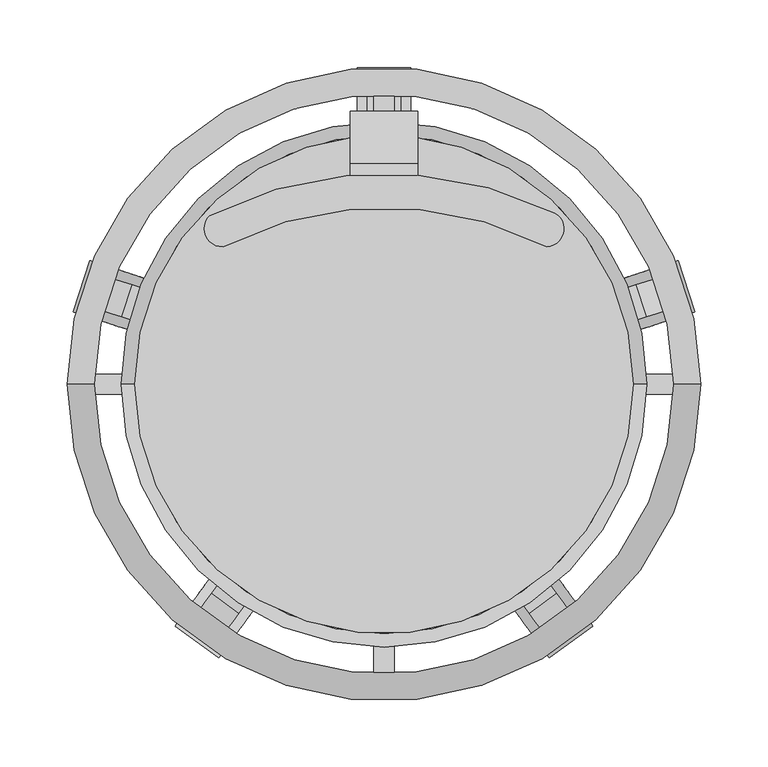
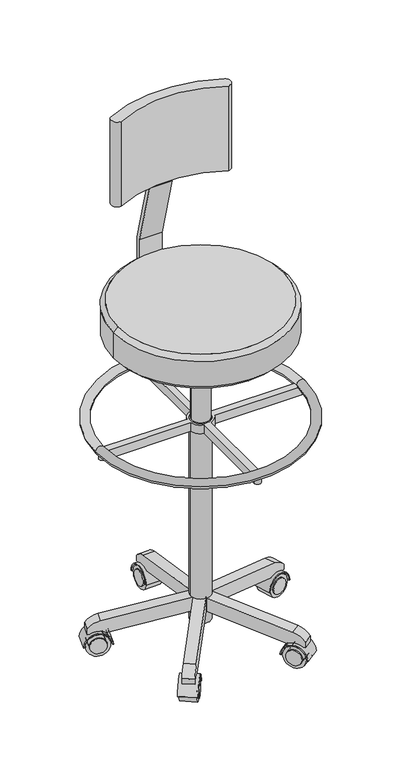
"""IFC4 building model written with IfcOpenShell, lengths in millimetres: furniture geometry, BIMHealth-Tall_Stool_V2-LOD2A-v1 : BIMHealth-Tall_Stool_V2-LOD2A-v1."""

from ifc_helpers import new_model, si_unit, point, frame, frame_2d, origin, origin_2d, place, context, project, spatial, polyline, circle_curve, ellipse_curve, trimmed, segment, composite_curve, outline, extrude, faceted_brep, source, transform, mapped, element, save
from ifc_brep_helpers import plane_surface, cylinder_surface, revolved_surface, advanced_brep


def furniture_127ff72e(model_context):
    return source(origin(), model_context, "Body", "SolidModel", [
        extrude(outline(composite_curve([segment(trimmed(circle_curve(frame_2d((-120.0847032, 115.4267056)), 13.3740969), [point((-119.4469665, 102.0678224))], [point((-129.3265232, 125.0939302))], False, "CARTESIAN"), True, "CONTINUOUS"), segment(trimmed(circle_curve(frame_2d((0.6377367, -131.2394215)), 287.397801), [point((-129.3265232, 125.0939302))], [point((126.8653249, 126.9544824))], False, "CARTESIAN"), True, "CONTINUOUS"), segment(trimmed(circle_curve(frame_2d((120.0847032, 115.4267056)), 13.3740969), [point((126.8653249, 126.9544824))], [point((120.7224399, 102.0678224))], False, "CARTESIAN"), True, "CONTINUOUS"), segment(trimmed(circle_curve(frame_2d((0.6377367, -131.2394215)), 262.397801), [point((120.7224399, 102.0678224))], [point((-119.4469665, 102.0678224))], True, "CARTESIAN"), True, "CONTINUOUS")], self_intersect=False)), frame((0.0, 0.0, 1000.0), z_axis=(0.0, 0.0, 1.0), x_axis=(1.0, 0.0, 0.0)), (0.0, 0.0, 1.0), 200.0),
        extrude(outline(composite_curve([segment(polyline([(192.4674596, 833.2734379), (153.6446028, 978.1623118), (153.6446028, 1128.1623118)]), True, "CONTINUOUS"), segment(trimmed(circle_curve(frame_2d((158.6446028, 1128.1623118)), 5.0), [point((153.6446028, 1128.1623118))], [point((163.6446028, 1128.1623118))], False, "CARTESIAN"), True, "CONTINUOUS"), segment(polyline([(163.6446028, 1128.1623118), (163.6446028, 979.4788368), (202.4674596, 834.5899628), (202.4674596, 753.2734379)]), True, "CONTINUOUS"), segment(trimmed(circle_curve(frame_2d((197.4674596, 753.2734379)), 5.0), [point((202.4674596, 753.2734379))], [point((192.4674596, 753.2734379))], False, "CARTESIAN"), True, "CONTINUOUS"), segment(polyline([(192.4674596, 753.2734379), (192.4674596, 833.2734379)]), True, "CONTINUOUS")], self_intersect=False)), frame((-25.0, 0.0, 0.0), z_axis=(1.0, 0.0, 0.0), x_axis=(0.0, 1.0, 0.0)), (0.0, 0.0, 1.0), 50.0),
        extrude(outline(composite_curve([segment(trimmed(circle_curve(origin_2d(), 27.5), [point((-7.5, -26.4575131))], [point((-26.4575131, -7.5))], False, "CARTESIAN"), True, "CONTINUOUS"), segment(polyline([(-26.4575131, -7.5), (-220.0, -7.5)]), True, "CONTINUOUS"), segment(trimmed(circle_curve(frame_2d((-220.0, 0.0)), 7.5), [point((-220.0, -7.5))], [point((-220.0, 7.5))], False, "CARTESIAN"), True, "CONTINUOUS"), segment(polyline([(-220.0, 7.5), (-26.4575131, 7.5)]), True, "CONTINUOUS"), segment(trimmed(circle_curve(origin_2d(), 27.5), [point((-26.4575131, 7.5))], [point((-7.5, 26.4575131))], False, "CARTESIAN"), True, "CONTINUOUS"), segment(polyline([(-7.5, 26.4575131), (-7.5, 219.6672121)]), True, "CONTINUOUS"), segment(trimmed(circle_curve(frame_2d((0.0, 219.6672121)), 7.5), [point((-7.5, 219.6672121))], [point((7.5, 219.6672121))], False, "CARTESIAN"), True, "CONTINUOUS"), segment(polyline([(7.5, 219.6672121), (7.5, 26.4575131)]), True, "CONTINUOUS"), segment(trimmed(circle_curve(origin_2d(), 27.5), [point((7.5, 26.4575131))], [point((26.4575131, 7.5))], False, "CARTESIAN"), True, "CONTINUOUS"), segment(polyline([(26.4575131, 7.5), (222.1681537, 7.5)]), True, "CONTINUOUS"), segment(trimmed(circle_curve(frame_2d((222.1681537, 0.0)), 7.5), [point((222.1681537, 7.5))], [point((222.1681537, -7.5))], False, "CARTESIAN"), True, "CONTINUOUS"), segment(polyline([(222.1681537, -7.5), (26.4575131, -7.5)]), True, "CONTINUOUS"), segment(trimmed(circle_curve(origin_2d(), 27.5), [point((26.4575131, -7.5))], [point((7.5, -26.4575131))], False, "CARTESIAN"), True, "CONTINUOUS"), segment(polyline([(7.5, -26.4575131), (7.5, -220.0)]), True, "CONTINUOUS"), segment(trimmed(circle_curve(frame_2d((0.0, -220.0)), 7.5), [point((7.5, -220.0))], [point((-7.5, -220.0))], False, "CARTESIAN"), True, "CONTINUOUS"), segment(polyline([(-7.5, -220.0), (-7.5, -26.4575131)]), True, "CONTINUOUS")], self_intersect=False), holes=[composite_curve([segment(trimmed(circle_curve(origin_2d(), 22.5), [point((-22.5, 0.0))], [point((22.5, 0.0))], True, "CARTESIAN"), True, "CONTINUOUS"), segment(trimmed(circle_curve(origin_2d(), 22.5), [point((22.5, 0.0))], [point((-22.5, 0.0))], True, "CARTESIAN"), True, "CONTINUOUS")], self_intersect=False)]), frame((0.0, 0.0, 502.3237726), z_axis=(0.0, 0.0, 1.0), x_axis=(1.0, 0.0, 0.0)), (0.0, 0.0, 1.0), 20.0),
        advanced_brep(
        [(215.0, 0.0, 522.3234967), (-215.0, 0.0, 522.3234967), (-235.0, 0.0, 522.3234967), (235.0, 0.0, 522.3234967)],
        [
            (0, 1, circle_curve(frame((0.0, 0.0, 522.3234967), z_axis=(0.0, 0.0, -1.0), x_axis=(-1.0, 0.0, 0.0)), 215.0)),
            (1, 2, circle_curve(frame((-225.0, 0.0, 522.3234967), z_axis=(0.0, -1.0, 0.0), x_axis=(1.0, 0.0, 0.0)), 10.0)),
            (2, 3, circle_curve(frame((0.0, 0.0, 522.3234967), z_axis=(0.0, 0.0, 1.0), x_axis=(-1.0, 0.0, 0.0)), 235.0)),
            (3, 0, circle_curve(frame((225.0, 0.0, 522.3234967), z_axis=(0.0, -1.0, 0.0), x_axis=(-1.0, 0.0, 0.0)), 10.0)),
            (2, 1, circle_curve(frame((-225.0, 0.0, 522.3234967), z_axis=(0.0, -1.0, 0.0), x_axis=(1.0, 0.0, 0.0)), 10.0)),
            (0, 3, circle_curve(frame((225.0, 0.0, 522.3234967), z_axis=(0.0, -1.0, 0.0), x_axis=(-1.0, 0.0, 0.0)), 10.0)),
            (1, 0, circle_curve(frame((0.0, 0.0, 522.3234967), z_axis=(0.0, 0.0, -1.0), x_axis=(1.0, 0.0, 0.0)), 215.0)),
            (3, 2, circle_curve(frame((0.0, 0.0, 522.3234967), z_axis=(0.0, 0.0, 1.0), x_axis=(1.0, 0.0, 0.0)), 235.0)),
        ],
        [
            revolved_surface(trimmed(ellipse_curve(frame((-225.0, 0.0, 522.3234967), z_axis=(0.0, 1.0, 0.0), x_axis=(1.0, 0.0, 0.0)), 10.0, 10.0), [point((-235.0, 0.0, 522.3234967))], [point((-215.0, 0.0, 522.3234967))], True, "CARTESIAN"), (0.0, 0.0, 522.3234967), (0.0, 0.0, 1.0)),
            revolved_surface(trimmed(ellipse_curve(frame((-225.0, 0.0, 522.3234967), z_axis=(0.0, 1.0, 0.0), x_axis=(1.0, 0.0, 0.0)), 10.0, 10.0), [point((-215.0, 0.0, 522.3234967))], [point((-235.0, 0.0, 522.3234967))], True, "CARTESIAN"), (0.0, 0.0, 522.3234967), (0.0, 0.0, 1.0)),
            revolved_surface(trimmed(ellipse_curve(frame((225.0, 0.0, 522.3234967), z_axis=(0.0, -1.0, 0.0), x_axis=(-1.0, 0.0, 0.0)), 10.0, 10.0), [point((235.0, 0.0, 522.3234967))], [point((215.0, 0.0, 522.3234967))], True, "CARTESIAN"), (0.0, 0.0, 522.3234967), (0.0, 0.0, 1.0)),
            revolved_surface(trimmed(ellipse_curve(frame((225.0, 0.0, 522.3234967), z_axis=(0.0, -1.0, 0.0), x_axis=(-1.0, 0.0, 0.0)), 10.0, 10.0), [point((215.0, 0.0, 522.3234967))], [point((235.0, 0.0, 522.3234967))], True, "CARTESIAN"), (0.0, 0.0, 522.3234967), (0.0, 0.0, 1.0)),
        ],
        [
            (0, [[1, 2, 3, 4]]),
            (1, [[-3, 5, -1, 6]]),
            (2, [[7, -4, 8, -2]]),
            (3, [[-8, -6, -7, -5]]),
        ],
    ),
        extrude(outline(composite_curve([segment(trimmed(circle_curve(frame_2d((0.0, -17.5000001)), 17.5), [point((0.0, -35.0))], [point((0.0, 0.0))], False, "CARTESIAN"), True, "CONTINUOUS"), segment(trimmed(circle_curve(frame_2d((0.0, -17.5000001)), 17.5), [point((0.0, 0.0))], [point((0.0, -35.0))], False, "CARTESIAN"), True, "CONTINUOUS")], self_intersect=False)), frame((-185.942293, 39.3870689, 25.0), z_axis=(0.3090169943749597, 0.9510565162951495, 0.0), x_axis=(0.0, 0.0, 1.0)), (0.0, 0.0, 1.0), 40.0),
        extrude(outline(composite_curve([segment(trimmed(circle_curve(frame_2d((29.5, 0.0)), 27.5), [point((2.0, 0.0))], [point((57.0, 0.0))], True, "CARTESIAN"), True, "CONTINUOUS"), segment(polyline([(57.0, 0.0), (59.0, 0.0)]), True, "CONTINUOUS"), segment(trimmed(circle_curve(frame_2d((29.5, 0.0)), 29.5), [point((59.0, 0.0))], [point((0.0, 0.0))], False, "CARTESIAN"), True, "CONTINUOUS"), segment(polyline([(0.0, 0.0), (2.0, 0.0)]), True, "CONTINUOUS")], self_intersect=False)), frame((-230.6419493, 53.9108676, 25.0), z_axis=(0.3090169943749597, 0.9510565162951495, 0.0), x_axis=(0.9510565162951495, -0.3090169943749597, 0.0)), (0.0, 0.0, 1.0), 40.0),
        extrude(outline(composite_curve([segment(trimmed(circle_curve(frame_2d((0.0, -25.0)), 25.0), [point((0.0, -50.0))], [point((0.0, 0.0))], False, "CARTESIAN"), True, "CONTINUOUS"), segment(trimmed(circle_curve(frame_2d((0.0, -25.0)), 25.0), [point((0.0, 0.0))], [point((0.0, -50.0))], False, "CARTESIAN"), True, "CONTINUOUS")], self_intersect=False), holes=[composite_curve([segment(trimmed(circle_curve(frame_2d((0.0, -25.0)), 17.5), [point((0.0, -42.5))], [point((0.0, -7.4999999))], True, "CARTESIAN"), True, "CONTINUOUS"), segment(trimmed(circle_curve(frame_2d((0.0, -25.0)), 17.5), [point((0.0, -7.4999999))], [point((0.0, -42.5))], True, "CARTESIAN"), True, "CONTINUOUS")], self_intersect=False)]), frame((-178.0368267, 39.4470827, 25.0), z_axis=(0.3090169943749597, 0.9510565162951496, 0.0), x_axis=(0.0, 0.0, 1.0)), (0.0, 0.0, 1.0), 35.0),
        extrude(outline(composite_curve([segment(trimmed(circle_curve(frame_2d((0.0, -17.5000001)), 17.5), [point((0.0, -35.0))], [point((0.0, 0.0))], False, "CARTESIAN"), True, "CONTINUOUS"), segment(trimmed(circle_curve(frame_2d((0.0, -17.5000001)), 17.5), [point((0.0, 0.0))], [point((0.0, -35.0))], False, "CARTESIAN"), True, "CONTINUOUS")], self_intersect=False)), frame((185.942293, 39.3870689, 25.0), z_axis=(-0.3090169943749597, 0.9510565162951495, 0.0), x_axis=(0.0, 0.0, -1.0)), (0.0, 0.0, 1.0), 40.0),
        extrude(outline(composite_curve([segment(polyline([(0.0, 55.0), (0.0, 57.0)]), True, "CONTINUOUS"), segment(trimmed(circle_curve(frame_2d((0.0, 27.5)), 29.5), [point((0.0, 57.0))], [point((0.0, -2.0))], False, "CARTESIAN"), True, "CONTINUOUS"), segment(polyline([(0.0, -2.0), (0.0, 0.0)]), True, "CONTINUOUS"), segment(trimmed(circle_curve(frame_2d((0.0, 27.5)), 27.5), [point((0.0, 0.0))], [point((0.0, 55.0))], True, "CARTESIAN"), True, "CONTINUOUS")], self_intersect=False)), frame((176.4317279, 36.2968989, 25.0), z_axis=(-0.3090169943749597, 0.9510565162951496, 0.0), x_axis=(0.0, 0.0, 1.0)), (0.0, 0.0, 1.0), 40.0),
        extrude(outline(composite_curve([segment(trimmed(circle_curve(frame_2d((0.0, -25.0)), 25.0), [point((0.0, -50.0))], [point((0.0, 0.0))], False, "CARTESIAN"), True, "CONTINUOUS"), segment(trimmed(circle_curve(frame_2d((0.0, -25.0)), 25.0), [point((0.0, 0.0))], [point((0.0, -50.0))], False, "CARTESIAN"), True, "CONTINUOUS")], self_intersect=False), holes=[composite_curve([segment(trimmed(circle_curve(frame_2d((0.0, -25.0)), 17.5), [point((0.0, -42.5))], [point((0.0, -7.4999999))], True, "CARTESIAN"), True, "CONTINUOUS"), segment(trimmed(circle_curve(frame_2d((0.0, -25.0)), 17.5), [point((0.0, -7.4999999))], [point((0.0, -42.5))], True, "CARTESIAN"), True, "CONTINUOUS")], self_intersect=False)]), frame((178.0368267, 39.4470827, 25.0), z_axis=(-0.3090169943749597, 0.9510565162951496, 0.0), x_axis=(0.0, 0.0, -1.0)), (0.0, 0.0, 1.0), 35.0),
        extrude(outline(composite_curve([segment(trimmed(circle_curve(frame_2d((0.0, -17.5)), 17.5), [point((0.0, -35.0))], [point((0.0, 0.0))], False, "CARTESIAN"), True, "CONTINUOUS"), segment(trimmed(circle_curve(frame_2d((0.0, -17.5)), 17.5), [point((0.0, 0.0))], [point((0.0, -35.0))], False, "CARTESIAN"), True, "CONTINUOUS")], self_intersect=False)), frame((95.0093576, -164.7951944, 25.0), z_axis=(0.8090169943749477, 0.5877852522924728, 0.0), x_axis=(0.0, 0.0, -1.0)), (0.0, 0.0, 1.0), 40.0),
        extrude(outline(composite_curve([segment(polyline([(-2.0, 0.0), (0.0, 0.0)]), True, "CONTINUOUS"), segment(trimmed(circle_curve(frame_2d((-29.5000001, 0.0)), 29.5), [point((0.0, 0.0))], [point((-59.0, 0.0))], False, "CARTESIAN"), True, "CONTINUOUS"), segment(polyline([(-59.0, 0.0), (-57.0, 0.0)]), True, "CONTINUOUS"), segment(trimmed(circle_curve(frame_2d((-29.5000001, 0.0)), 27.5), [point((-57.0, 0.0))], [point((-2.0, 0.0))], True, "CARTESIAN"), True, "CONTINUOUS")], self_intersect=False)), frame((122.6352645, -202.8189932, 25.0), z_axis=(0.8090169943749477, 0.5877852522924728, 0.0), x_axis=(0.5877852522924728, -0.8090169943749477, 0.0)), (0.0, 0.0, 1.0), 40.0),
        extrude(outline(composite_curve([segment(trimmed(circle_curve(frame_2d((0.0, -25.0)), 25.0), [point((0.0, -50.0000001))], [point((0.0, 0.0))], False, "CARTESIAN"), True, "CONTINUOUS"), segment(trimmed(circle_curve(frame_2d((0.0, -25.0)), 25.0), [point((0.0, 0.0))], [point((0.0, -50.0000001))], False, "CARTESIAN"), True, "CONTINUOUS")], self_intersect=False), holes=[composite_curve([segment(trimmed(circle_curve(frame_2d((0.0, -25.0)), 17.5), [point((0.0, -42.5))], [point((0.0, -7.5))], True, "CARTESIAN"), True, "CONTINUOUS"), segment(trimmed(circle_curve(frame_2d((0.0, -25.0)), 17.5), [point((0.0, -7.5))], [point((0.0, -42.5))], True, "CARTESIAN"), True, "CONTINUOUS")], self_intersect=False)]), frame((92.6235107, -157.2581038, 25.0), z_axis=(0.8090169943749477, 0.5877852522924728, 0.0), x_axis=(0.0, 0.0, -1.0)), (0.0, 0.0, 1.0), 35.0),
        extrude(outline(composite_curve([segment(trimmed(circle_curve(frame_2d((0.0, -17.5)), 17.5), [point((0.0, -35.0))], [point((0.0, 0.0))], False, "CARTESIAN"), True, "CONTINUOUS"), segment(trimmed(circle_curve(frame_2d((0.0, -17.5)), 17.5), [point((0.0, 0.0))], [point((0.0, -35.0))], False, "CARTESIAN"), True, "CONTINUOUS")], self_intersect=False)), frame((-95.0093576, -164.7951944, 25.0), z_axis=(-0.8090169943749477, 0.5877852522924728, 0.0), x_axis=(0.0, 0.0, 1.0)), (0.0, 0.0, 1.0), 40.0),
        extrude(outline(composite_curve([segment(trimmed(circle_curve(frame_2d((0.0, 27.4999999)), 27.5), [point((0.0, 55.0))], [point((0.0, 0.0))], True, "CARTESIAN"), True, "CONTINUOUS"), segment(polyline([(0.0, 0.0), (0.0, -2.0)]), True, "CONTINUOUS"), segment(trimmed(circle_curve(frame_2d((0.0, 27.4999999)), 29.5), [point((0.0, -2.0))], [point((0.0, 57.0))], False, "CARTESIAN"), True, "CONTINUOUS"), segment(polyline([(0.0, 57.0), (0.0, 55.0)]), True, "CONTINUOUS")], self_intersect=False)), frame((-89.1315051, -156.7050245, 25.0), z_axis=(-0.8090169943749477, 0.5877852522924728, 0.0), x_axis=(0.0, 0.0, -1.0)), (0.0, 0.0, 1.0), 40.0),
        extrude(outline(composite_curve([segment(trimmed(circle_curve(frame_2d((205.6508009, 25.0)), 17.5), [point((223.1508009, 25.0))], [point((188.1508009, 25.0))], False, "CARTESIAN"), True, "CONTINUOUS"), segment(trimmed(circle_curve(frame_2d((205.6508009, 25.0)), 17.5), [point((188.1508009, 25.0))], [point((223.1508009, 25.0))], False, "CARTESIAN"), True, "CONTINUOUS")], self_intersect=False)), frame((-20.0, 0.0, 0.0), z_axis=(1.0, 0.0, 0.0), x_axis=(0.0, 1.0, 0.0)), (0.0, 0.0, 1.0), 40.0),
        extrude(outline(composite_curve([segment(trimmed(circle_curve(frame_2d((205.6508009, 25.0)), 27.5), [point((233.1508009, 25.0))], [point((178.1508009, 25.0))], True, "CARTESIAN"), True, "CONTINUOUS"), segment(polyline([(178.1508009, 25.0), (176.1508009, 25.0)]), True, "CONTINUOUS"), segment(trimmed(circle_curve(frame_2d((205.6508009, 25.0)), 29.5), [point((176.1508009, 25.0))], [point((235.1508009, 25.0))], False, "CARTESIAN"), True, "CONTINUOUS"), segment(polyline([(235.1508009, 25.0), (233.1508009, 25.0)]), True, "CONTINUOUS")], self_intersect=False)), frame((-20.0, 0.0, 0.0), z_axis=(1.0, 0.0, 0.0), x_axis=(0.0, 1.0, 0.0)), (0.0, 0.0, 1.0), 40.0),
        extrude(outline(composite_curve([segment(trimmed(circle_curve(frame_2d((205.6508009, 25.0)), 25.0), [point((230.6508009, 25.0))], [point((180.6508009, 25.0))], False, "CARTESIAN"), True, "CONTINUOUS"), segment(trimmed(circle_curve(frame_2d((205.6508009, 25.0)), 25.0), [point((180.6508009, 25.0))], [point((230.6508009, 25.0))], False, "CARTESIAN"), True, "CONTINUOUS")], self_intersect=False), holes=[composite_curve([segment(trimmed(circle_curve(frame_2d((205.6508009, 25.0)), 17.5), [point((223.1508009, 25.0))], [point((188.1508009, 25.0))], True, "CARTESIAN"), True, "CONTINUOUS"), segment(trimmed(circle_curve(frame_2d((205.6508009, 25.0)), 17.5), [point((188.1508009, 25.0))], [point((223.1508009, 25.0))], True, "CARTESIAN"), True, "CONTINUOUS")], self_intersect=False)]), frame((-17.5, 0.0, 0.0), z_axis=(1.0, 0.0, 0.0), x_axis=(0.0, 1.0, 0.0)), (0.0, 0.0, 1.0), 35.0),
        extrude(outline(composite_curve([segment(polyline([(-203.081018, -1e-07), (0.0, 0.0), (-4.8975538, -30.9502804), (-194.4436151, -30.9770998), (-233.9073651, -24.7323797), (-231.9536812, -12.3859988)]), True, "CONTINUOUS"), segment(trimmed(circle_curve(frame_2d((-203.0810181, -39.845137)), 39.8451369), [point((-231.9536812, -12.3859988))], [point((-203.081018, -1e-07))], False, "CARTESIAN"), True, "CONTINUOUS")], self_intersect=False)), frame((3.8627124, -11.8882065, 110.9869146), z_axis=(-0.30901699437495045, 0.9510565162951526, 0.0), x_axis=(-0.9393684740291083, -0.3052193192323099, 0.15629471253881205)), (0.0, 0.0, 1.0), 25.0),
        extrude(outline(composite_curve([segment(trimmed(circle_curve(frame_2d((0.0, -39.8451369)), 39.8451369), [point((-39.3554587, -33.6175527))], [point((-22.6090335, -7.0355873))], False, "CARTESIAN"), True, "CONTINUOUS"), segment(polyline([(-22.6090335, -7.0355873), (-10.1090335, -7.0355873), (-10.1090335, -46.990363), (-39.7605705, -234.2027995), (-71.0959481, -234.2027995), (-39.3554587, -33.6175527)]), True, "CONTINUOUS")], self_intersect=False)), frame((-226.602811, 60.4844387, 39.8909665), z_axis=(0.3090169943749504, 0.9510565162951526, 0.0), x_axis=(0.0, 0.0, -1.0)), (0.0, 0.0, 1.0), 25.0),
        extrude(outline(composite_curve([segment(trimmed(circle_curve(frame_2d((0.0, -39.845137)), 39.8451369), [point((-39.3554587, -33.6175527))], [point((-22.6090335, -7.0355874))], False, "CARTESIAN"), True, "CONTINUOUS"), segment(polyline([(-22.6090335, -7.0355874), (-10.1090335, -7.0355874), (-10.1090335, -46.9903631), (-39.7605705, -234.2027995), (-71.0959481, -234.2027995), (-39.3554587, -33.6175527)]), True, "CONTINUOUS")], self_intersect=False)), frame((-127.5482392, -196.8213606, 39.8909665), z_axis=(-0.8090169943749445, 0.5877852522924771, 0.0), x_axis=(0.0, 0.0, -1.0)), (0.0, 0.0, 1.0), 25.0),
        extrude(outline(composite_curve([segment(polyline([(-203.081018, -1e-07), (0.0, 0.0), (-4.8975538, -30.9502804), (-194.4436149, -30.9770998), (-233.907365, -24.7323797), (-231.9536811, -12.3859989)]), True, "CONTINUOUS"), segment(trimmed(circle_curve(frame_2d((-203.081018, -39.845137)), 39.8451369), [point((-231.9536811, -12.3859989))], [point((-203.081018, -1e-07))], False, "CARTESIAN"), True, "CONTINUOUS")], self_intersect=False)), frame((-10.1127124, -7.3473157, 110.9869146), z_axis=(0.8090169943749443, 0.5877852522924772, 0.0), x_axis=(-0.5805616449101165, 0.7990745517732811, 0.15629471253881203)), (0.0, 0.0, 1.0), 25.0),
        extrude(outline(composite_curve([segment(trimmed(circle_curve(frame_2d((194.3576625, 39.8909665)), 39.8451369), [point((200.5852468, 79.2464252))], [point((227.1672121, 62.5))], False, "CARTESIAN"), True, "CONTINUOUS"), segment(polyline([(227.1672121, 62.5), (227.1672121, 50.0), (187.2124365, 50.0), (0.0, 79.651537), (0.0, 110.9869146), (200.5852468, 79.2464252)]), True, "CONTINUOUS")], self_intersect=False)), frame((-12.5, 0.0, 0.0), z_axis=(1.0, 0.0, 0.0), x_axis=(0.0, 1.0, 0.0)), (0.0, 0.0, 1.0), 25.0),
        extrude(outline(composite_curve([segment(trimmed(circle_curve(origin_2d(), 22.5), [point((-22.5, 0.0))], [point((22.5, 0.0))], False, "CARTESIAN"), True, "CONTINUOUS"), segment(trimmed(circle_curve(origin_2d(), 22.5), [point((22.5, 0.0))], [point((-22.5, 0.0))], False, "CARTESIAN"), True, "CONTINUOUS")], self_intersect=False)), frame((0.0, 0.0, 50.0), z_axis=(0.0, 0.0, 1.0), x_axis=(1.0, 0.0, 0.0)), (0.0, 0.0, 1.0), 472.3234967),
        extrude(outline(composite_curve([segment(trimmed(circle_curve(origin_2d(), 20.0), [point((-20.0, 0.0))], [point((20.0, 0.0))], False, "CARTESIAN"), True, "CONTINUOUS"), segment(trimmed(circle_curve(origin_2d(), 20.0), [point((20.0, 0.0))], [point((-20.0, 0.0))], False, "CARTESIAN"), True, "CONTINUOUS")], self_intersect=False)), frame((0.0, 0.0, 522.3234967), z_axis=(0.0, 0.0, 1.0), x_axis=(1.0, 0.0, 0.0)), (0.0, 0.0, 1.0), 137.6765033),
        faceted_brep([(65.0, 65.0, 710.0), (-65.0, 65.0, 710.0), (-65.0, -65.0, 710.0), (65.0, -65.0, 710.0), (35.0, 35.0, 660.0), (35.0, -35.0, 660.0), (-35.0, -35.0, 660.0), (-35.0, 35.0, 660.0)], [[[0, 1, 2, 3]], [[4, 5, 6, 7]], [[4, 7, 1, 0]], [[7, 6, 2, 1]], [[6, 5, 3, 2]], [[5, 4, 0, 3]]]),
        extrude(outline(polyline([(75.0, 75.0), (75.0, -75.0), (-75.0, -75.0), (-75.0, 75.0), (75.0, 75.0)])), frame((0.0, 0.0, 710.0), z_axis=(0.0, 0.0, 1.0), x_axis=(1.0, 0.0, 0.0)), (0.0, 0.0, 1.0), 10.0),
        advanced_brep(
        [(-185.0, 0.0, 800.0), (185.0, 0.0, 800.0), (-195.0, 0.0, 790.0), (195.0, 0.0, 790.0), (-185.0, 0.0, 720.0), (185.0, 0.0, 720.0), (195.0, 0.0, 730.0), (-195.0, 0.0, 730.0)],
        [
            (0, 1, circle_curve(frame((0.0, 0.0, 800.0), z_axis=(0.0, 0.0, 1.0), x_axis=(1.0, 0.0, 0.0)), 185.0)),
            (1, 0, circle_curve(frame((0.0, 0.0, 800.0), z_axis=(0.0, 0.0, 1.0), x_axis=(-1.0, 0.0, 0.0)), 185.0)),
            (0, 2),
            (2, 3, circle_curve(frame((0.0, 0.0, 790.0), z_axis=(0.0, 0.0, 1.0), x_axis=(1.0, 0.0, 0.0)), 195.0)),
            (3, 1),
            (3, 2, circle_curve(frame((0.0, 0.0, 790.0), z_axis=(0.0, 0.0, 1.0), x_axis=(-1.0, 0.0, 0.0)), 195.0)),
            (4, 5, circle_curve(frame((0.0, 0.0, 720.0), z_axis=(0.0, 0.0, -1.0), x_axis=(1.0, 0.0, 0.0)), 185.0)),
            (5, 4, circle_curve(frame((0.0, 0.0, 720.0), z_axis=(0.0, 0.0, -1.0), x_axis=(-1.0, 0.0, 0.0)), 185.0)),
            (5, 6),
            (6, 7, circle_curve(frame((0.0, 0.0, 730.0), z_axis=(0.0, 0.0, -1.0), x_axis=(-1.0, 0.0, 0.0)), 195.0)),
            (7, 4),
            (7, 6, circle_curve(frame((0.0, 0.0, 730.0), z_axis=(0.0, 0.0, -1.0), x_axis=(1.0, 0.0, 0.0)), 195.0)),
            (2, 7),
            (6, 3),
        ],
        [
            plane_surface(frame((0.0, 0.0, 800.0), z_axis=(0.0, 0.0, 1.0), x_axis=(0.0, -1.0, 0.0))),
            revolved_surface(polyline([(-185.0, 0.0, 800.0), (-195.0, 0.0, 790.0)]), (0.0, 0.0, 985.0), (0.0, 0.0, -1.0)),
            revolved_surface(polyline([(185.0, 0.0, 800.0), (195.0, 0.0, 790.0)]), (0.0, 0.0, 985.0), (0.0, 0.0, -1.0)),
            plane_surface(frame((0.0, 0.0, 720.0), z_axis=(0.0, 0.0, -1.0), x_axis=(0.0, -1.0, 0.0))),
            revolved_surface(polyline([(185.0, 0.0, 720.0), (195.0, 0.0, 730.0)]), (0.0, 0.0, 535.0), (0.0, 0.0, 1.0)),
            revolved_surface(polyline([(-185.0, 0.0, 720.0), (-195.0, 0.0, 730.0)]), (0.0, 0.0, 535.0), (0.0, 0.0, 1.0)),
            cylinder_surface(frame((0.0, 0.0, 730.0), z_axis=(0.0, 0.0, 1.0), x_axis=(1.0, 0.0, 0.0)), 195.0),
        ],
        [
            (0, [[1, 2]]),
            (1, [[-1, 3, 4, 5]]),
            (2, [[-2, -5, 6, -3]]),
            (3, [[7, 8]]),
            (4, [[-8, 9, 10, 11]]),
            (5, [[-7, -11, 12, -9]]),
            (6, [[13, -10, 14, -4]]),
            (6, [[-13, -6, -14, -12]]),
        ],
    ),
        extrude(outline(composite_curve([segment(trimmed(circle_curve(frame_2d((0.0, -25.0)), 25.0), [point((0.0, -50.0000001))], [point((0.0, 0.0))], False, "CARTESIAN"), True, "CONTINUOUS"), segment(trimmed(circle_curve(frame_2d((0.0, -25.0)), 25.0), [point((0.0, 0.0))], [point((0.0, -50.0000001))], False, "CARTESIAN"), True, "CONTINUOUS")], self_intersect=False), holes=[composite_curve([segment(trimmed(circle_curve(frame_2d((0.0, -25.0)), 17.5), [point((0.0, -42.5))], [point((0.0, -7.5))], True, "CARTESIAN"), True, "CONTINUOUS"), segment(trimmed(circle_curve(frame_2d((0.0, -25.0)), 17.5), [point((0.0, -7.5))], [point((0.0, -42.5))], True, "CARTESIAN"), True, "CONTINUOUS")], self_intersect=False)]), frame((-92.6235107, -157.2581038, 25.0), z_axis=(-0.8090169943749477, 0.5877852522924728, 0.0), x_axis=(0.0, 0.0, 1.0)), (0.0, 0.0, 1.0), 35.0),
    ])


if __name__ == "__main__":
    model = new_model("IFC4")
    model_context = context("Model", 3, world=origin())
    ifc_project = project(units=[si_unit("LENGTHUNIT", "METRE", prefix="MILLI")], contexts=[model_context])
    site = spatial("IfcSite", under=ifc_project)
    building = spatial("IfcBuilding", under=site)
    placement = place(None, origin())
    furniture_shape = furniture_127ff72e(model_context)
    element("IfcFurniture", 1, ObjectType="BIMHealth-Tall_Stool_V2-LOD2A-v1 : BIMHealth-Tall_Stool_V2-LOD2A-v1", at=placement, inside=building, context=model_context, shape_type="MappedRepresentation", body=[
        mapped(furniture_shape, transform((0.0, 0.0, 0.0), x_axis=(1.0, 0.0, 0.0), y_axis=(0.0, 1.0, 0.0), z_axis=(0.0, 0.0, 1.0))),
    ])
    save(model, "model.ifc")
